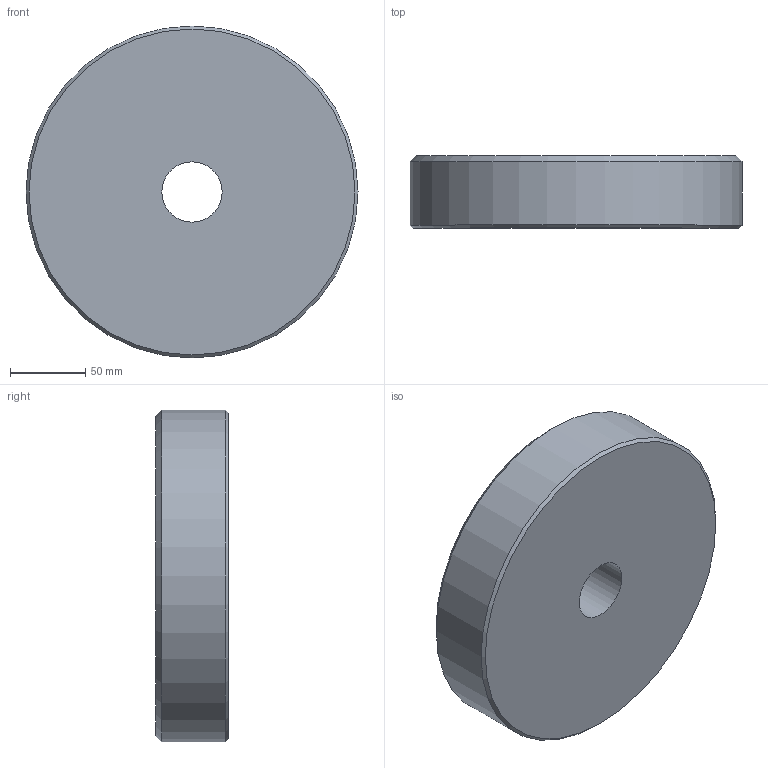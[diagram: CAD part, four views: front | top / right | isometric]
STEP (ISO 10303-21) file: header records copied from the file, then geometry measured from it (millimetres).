
FILE_DESCRIPTION(/* description */ (''),/* implementation_level */ '2;1');
FILE_NAME(/* name */ 'C:\Users\stagistaCAD\Desktop\00002340.stp',/* time_stamp */ '2018-06-15T16:13:05+02:00',/* author */ ('stagistacad'),/* organization */ (''),/* preprocessor_version */ 'ST-DEVELOPER v15.6',/* originating_system */ 'Autodesk Inventor 2015',/* authorisation */ '');
FILE_SCHEMA (('AUTOMOTIVE_DESIGN { 1 0 10303 214 3 1 1 }'));
Length unit declared in the file: millimetre
Products named in the file (1): 00002340
Bounding box: 220 x 48 x 220 mm (x, y, z)
Volume: 1757482.3 mm3; surface area: 110265.1 mm2
Topology: 1 solids, 1 shells, 6 faces, 10 edges, 6 vertices
Faces by surface type: cylinder 2, cone 2, plane 2
Full cylindrical faces by diameter (mm): 40 x1, 220 x1
Entity records: 152 total; most frequent: DIRECTION 26, CARTESIAN_POINT 19, AXIS2_PLACEMENT_3D 13, EDGE_LOOP 12, ORIENTED_EDGE 12, FACE_BOUND 6, FACE_OUTER_BOUND 6, CIRCLE 6
